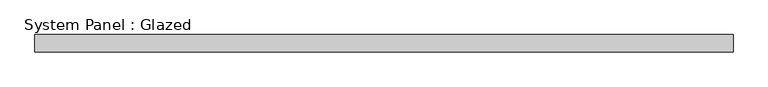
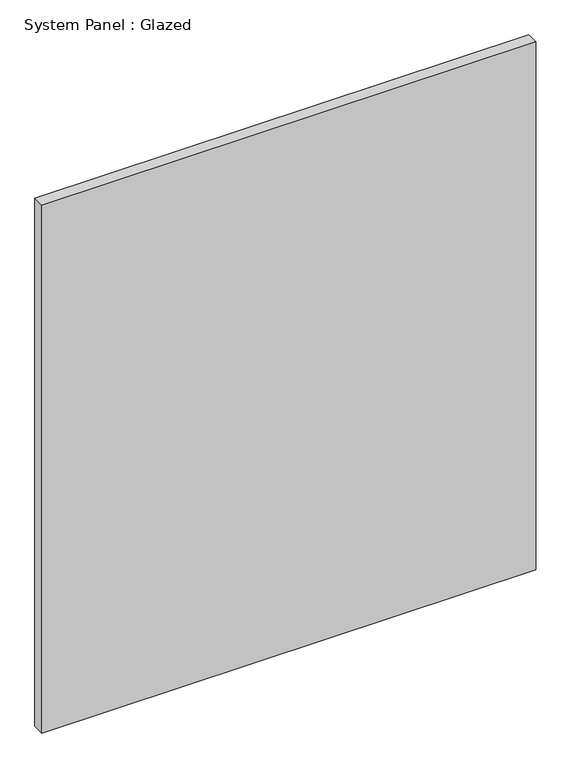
"""IFC4 building model written with IfcOpenShell, lengths in millimetres: plate geometry, System Panel : Glazed."""

import ifcopenshell
import ifcopenshell.guid

model = None  # the IFC model being written
_history = None  # IfcOwnerHistory: only IFC2X3 demands one
_inside = {}  # id of a spatial element -> (the spatial element, [elements in it])
_under = {}  # id of a project, library or spatial element -> (it, [spatial elements below it])
_declared = {}  # id of a project -> (the project, [libraries it declares])
_typed = {}  # id of a type object -> (the type object, [elements of that type])
_made_of = {}  # id of a material, layer set ... -> (it, [elements and type objects made of it])


def new_model(schema):
    """Start an empty IFC model of exactly this schema.

    Asked for "IFC4X3", IfcOpenShell would pick the latest addendum, in which some entities
    have other attributes; the version numbers below select the first issue.
    IFC2X3 requires an IfcOwnerHistory on every rooted entity: one is made here for all.
    """
    global model, _history
    if schema == "IFC4X3":
        model = ifcopenshell.file(schema_version=(4, 3, 0, 0))
    else:
        model = ifcopenshell.file(schema=schema)
    _inside.clear()
    _under.clear()
    _declared.clear()
    _typed.clear()
    _made_of.clear()
    _history = None
    if model.schema == "IFC2X3":
        org = make("IfcOrganization", Name="unknown")
        user = make(
            "IfcPersonAndOrganization",
            ThePerson=make("IfcPerson", FamilyName="unknown"),
            TheOrganization=org,
        )
        app = make(
            "IfcApplication",
            ApplicationDeveloper=org,
            Version="unknown",
            ApplicationFullName="unknown",
            ApplicationIdentifier="unknown",
        )
        _history = make(
            "IfcOwnerHistory",
            OwningUser=user,
            OwningApplication=app,
            ChangeAction="ADDED",
            CreationDate=0,
        )
    return model


def make(cls, **values):
    """One entity of the class cls with the attributes given. An attribute that is None is left unset."""
    return model.create_entity(
        cls, **{name: value for name, value in values.items() if value is not None}
    )


def rooted(cls, **values):
    """An entity with a GlobalId (a new one), such as an element, a storey or a relation."""
    return make(cls, GlobalId=ifcopenshell.guid.new(), OwnerHistory=_history, **values)


def si_unit(unit_type, name, prefix=None):
    """IfcSIUnit, for example si_unit("LENGTHUNIT", "METRE", prefix="MILLI")."""
    return make("IfcSIUnit", UnitType=unit_type, Prefix=prefix, Name=name)


def assignment(units):
    """IfcUnitAssignment: the units of a project."""
    return None if units is None else make("IfcUnitAssignment", Units=units)


def point(xyz):
    """IfcCartesianPoint."""
    return None if xyz is None else make("IfcCartesianPoint", Coordinates=xyz)


def direction(xyz):
    """IfcDirection."""
    return None if xyz is None else make("IfcDirection", DirectionRatios=xyz)


def frame(location, z_axis=None, x_axis=None):
    """IfcAxis2Placement3D, a coordinate frame: its origin and axes. An axis left out is left unset."""
    return make(
        "IfcAxis2Placement3D",
        Location=point(location),
        Axis=direction(z_axis),
        RefDirection=direction(x_axis),
    )


def origin():
    """The frame at (0, 0, 0) with its axes left unset."""
    return frame((0.0, 0.0, 0.0))


def origin_with_axes():
    """The frame at (0, 0, 0) with the z axis (0, 0, 1) and the x axis (1, 0, 0) written out."""
    return frame((0.0, 0.0, 0.0), z_axis=(0.0, 0.0, 1.0), x_axis=(1.0, 0.0, 0.0))


def place(relative_to, where):
    """IfcLocalPlacement: puts the frame where relative to a parent placement (None: the world)."""
    return make(
        "IfcLocalPlacement", PlacementRelTo=relative_to, RelativePlacement=where
    )


def context(
    kind, dimensions, precision=None, world=None, true_north=None, identifier=None
):
    """IfcGeometricRepresentationContext, for example the 3D "Model" context."""
    return make(
        "IfcGeometricRepresentationContext",
        ContextIdentifier=identifier,
        ContextType=kind,
        CoordinateSpaceDimension=dimensions,
        Precision=precision,
        WorldCoordinateSystem=world,
        TrueNorth=true_north,
    )


def project(units=None, contexts=None):
    """IfcProject with its units and contexts."""
    return rooted(
        "IfcProject",
        Name="project",
        RepresentationContexts=contexts,
        UnitsInContext=assignment(units),
    )


def spatial(cls, under=None, at=None, **own):
    """A site, building, storey or space (cls), placed at a placement, below another one or the project."""
    s = rooted(cls, ObjectPlacement=at, **own)
    if under is not None:
        _under.setdefault(under.id(), (under, []))[1].append(s)
    return s


def polyline(points):
    """IfcPolyline through the points."""
    return make("IfcPolyline", Points=[point(p) for p in points])


def outline(outer, holes=None, kind="AREA"):
    """IfcArbitraryClosedProfileDef: a profile drawn as a closed curve; with holes, ...WithVoids."""
    if holes is None:
        return make("IfcArbitraryClosedProfileDef", ProfileType=kind, OuterCurve=outer)
    return make(
        "IfcArbitraryProfileDefWithVoids",
        ProfileType=kind,
        OuterCurve=outer,
        InnerCurves=holes,
    )


def extrude(swept, where, along, depth):
    """IfcExtrudedAreaSolid: the profile swept, set in the frame where, extruded along a direction by depth."""
    return make(
        "IfcExtrudedAreaSolid",
        SweptArea=swept,
        Position=where,
        ExtrudedDirection=direction(along),
        Depth=depth,
    )


def shape(context_of_items, identifier, shape_type, items):
    """IfcShapeRepresentation: the items that make up one representation, for example the "Body"."""
    return make(
        "IfcShapeRepresentation",
        ContextOfItems=context_of_items,
        RepresentationIdentifier=identifier,
        RepresentationType=shape_type,
        Items=items,
    )


def source(mapping_origin, context_of_items, identifier, shape_type, items):
    """IfcRepresentationMap: a shape defined once, which mapped items show again and again."""
    return make(
        "IfcRepresentationMap",
        MappingOrigin=mapping_origin,
        MappedRepresentation=shape(context_of_items, identifier, shape_type, items),
    )


def transform(
    local_origin,
    x_axis=None,
    y_axis=None,
    z_axis=None,
    scale=None,
    scale2=None,
    scale3=None,
    uniform=True,
):
    """IfcCartesianTransformationOperator3D, or its non-uniform kind. x_axis, y_axis, z_axis: its Axis1, 2, 3."""
    if uniform:
        return make(
            "IfcCartesianTransformationOperator3D",
            Axis1=direction(x_axis),
            Axis2=direction(y_axis),
            LocalOrigin=point(local_origin),
            Scale=scale,
            Axis3=direction(z_axis),
        )
    return make(
        "IfcCartesianTransformationOperator3DnonUniform",
        Axis1=direction(x_axis),
        Axis2=direction(y_axis),
        LocalOrigin=point(local_origin),
        Scale=scale,
        Axis3=direction(z_axis),
        Scale2=scale2,
        Scale3=scale3,
    )


def mapped(mapping_source, mapping_target):
    """IfcMappedItem: shows the shape of a source again, moved by a transform."""
    return make(
        "IfcMappedItem", MappingSource=mapping_source, MappingTarget=mapping_target
    )


def made_of(thing, what):
    """Note that an element or type object is made of a material, layer set ...; save() writes the relation."""
    if what is not None:
        _made_of.setdefault(what.id(), (what, []))[1].append(thing)
    return thing


def element(
    cls,
    number,
    at=None,
    inside=None,
    cuts=None,
    type_object=None,
    material=None,
    context=None,
    identifier="Body",
    shape_type=None,
    held_by="IfcProductDefinitionShape",
    body=None,
    shapes=None,
    **own,
):
    """One element of the class cls, such as IfcWall. Its Tag is "e" and its number.

    at: its placement. inside: the storey or other place that contains it. cuts: it is an
    opening in that element (IfcRelVoidsElement). A single representation is given by context,
    identifier, shape_type and body (its items); several are given by shapes. held_by: the class
    of the entity that holds the representations. save() writes the other relations.
    """
    e = rooted(cls, Tag="e%d" % number, ObjectPlacement=at, **own)
    if body is not None:
        shapes = [shape(context, identifier, shape_type, body)]
    if shapes is not None:
        e.Representation = make(held_by, Representations=shapes)
    if inside is not None:
        _inside.setdefault(inside.id(), (inside, []))[1].append(e)
    if cuts is not None:
        rooted(
            "IfcRelVoidsElement", RelatingBuildingElement=cuts, RelatedOpeningElement=e
        )
    if type_object is not None:
        _typed.setdefault(type_object.id(), (type_object, []))[1].append(e)
    return made_of(e, material)


def aggregate(whole, parts):
    """IfcRelAggregates: a whole, such as a stair, and the parts it consists of."""
    return rooted("IfcRelAggregates", RelatingObject=whole, RelatedObjects=parts)


def save(model, path):
    """Write the relations noted so far, then the file.

    IfcRelAggregates (storeys below a building ...), IfcRelContainedInSpatialStructure (elements
    in a storey), IfcRelDefinesByType, IfcRelAssociatesMaterial and IfcRelDeclares: one each for
    every whole, place, type object, material and project.
    """
    for whole, parts in _under.values():
        aggregate(whole, parts)
    for where, things in _inside.values():
        rooted(
            "IfcRelContainedInSpatialStructure",
            RelatedElements=things,
            RelatingStructure=where,
        )
    for kind, things in _typed.values():
        rooted("IfcRelDefinesByType", RelatedObjects=things, RelatingType=kind)
    for what, things in _made_of.values():
        rooted("IfcRelAssociatesMaterial", RelatedObjects=things, RelatingMaterial=what)
    for by, libraries in _declared.values():
        rooted("IfcRelDeclares", RelatingContext=by, RelatedDefinitions=libraries)
    model.write(path)


def system_panel_glazed_32a8b4ed(model_context):
    return source(origin(), model_context, "Body", "SweptSolid", [
        extrude(outline(polyline([(511.4925, -44.45), (-511.4925, -44.45), (-511.4925, -19.05), (511.4925, -19.05), (511.4925, -44.45)])), origin_with_axes(), (0.0, 0.0, 1.0), 1155.7),
    ])


if __name__ == "__main__":
    model = new_model("IFC4")
    model_context = context("Model", 3, world=origin())
    ifc_project = project(units=[si_unit("LENGTHUNIT", "METRE", prefix="MILLI")], contexts=[model_context])
    site = spatial("IfcSite", under=ifc_project)
    building = spatial("IfcBuilding", under=site)
    placement = place(None, origin())
    system_panel_glazed_shape = system_panel_glazed_32a8b4ed(model_context)
    element("IfcPlate", 1, ObjectType="System Panel : Glazed", at=placement, inside=building, context=model_context, shape_type="MappedRepresentation", body=[
        mapped(system_panel_glazed_shape, transform((0.0, 0.0, 0.0), x_axis=(1.0, 0.0, 0.0), y_axis=(0.0, 1.0, 0.0), z_axis=(0.0, 0.0, 1.0))),
    ])
    save(model, "model.ifc")
